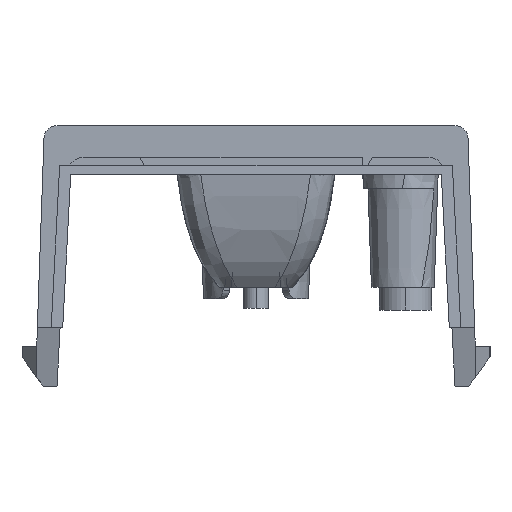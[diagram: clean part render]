
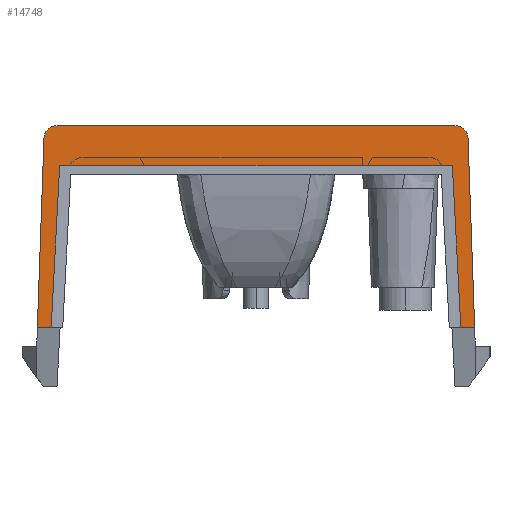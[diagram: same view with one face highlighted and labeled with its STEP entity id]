
A CAD part, left-side view. The second image highlights one B-rep face of the part: STEP entity #14748.
In plain terms, the highlighted planar face has unit normal (-1, 0, 0).
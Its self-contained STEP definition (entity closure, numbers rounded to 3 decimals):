
#476=DIRECTION('',(0.,-1.,0.));
#477=VECTOR('',#476,0.846);
#478=CARTESIAN_POINT('',(-138.911,44.468,-2.572));
#479=LINE('',#478,#477);
#810=DIRECTION('',(0.,-1.,0.));
#811=VECTOR('',#810,0.846);
#812=CARTESIAN_POINT('',(-138.911,18.595,-2.572));
#813=LINE('',#812,#811);
#1221=DIRECTION('',(0.,0.052,0.999));
#1222=VECTOR('',#1221,9.898);
#1223=CARTESIAN_POINT('',(-138.911,18.595,
-2.572));
#1224=LINE('',#1223,#1222);
#1225=DIRECTION('',(0.,1.,0.));
#1226=VECTOR('',#1225,23.99);
#1227=CARTESIAN_POINT('',(-138.911,19.114,7.313));
#1228=LINE('',#1227,#1226);
#1229=DIRECTION('',(0.,0.052,-0.999));
#1230=VECTOR('',#1229,9.898);
#1231=CARTESIAN_POINT('',(-138.911,43.103,7.313));
#1232=LINE('',#1231,#1230);
#1233=DIRECTION('',(0.,-0.035,0.999));
#1234=VECTOR('',#1233,11.559);
#1235=CARTESIAN_POINT('',(-138.911,44.468,
-2.572));
#1236=LINE('',#1235,#1234);
#1237=CARTESIAN_POINT('',(-138.911,43.262,8.952));
#1238=DIRECTION('',(1.,0.,0.));
#1239=DIRECTION('',(0.,0.999,0.035));
#1240=AXIS2_PLACEMENT_3D('',#1237,#1238,#1239);
#1242=CARTESIAN_POINT('',(-138.911,18.955,8.952));
#1243=DIRECTION('',(1.,0.,0.));
#1244=DIRECTION('',(0.,0.,1.));
#1245=AXIS2_PLACEMENT_3D('',#1242,#1243,#1244);
#1247=DIRECTION('',(0.,-0.035,-0.999));
#1248=VECTOR('',#1247,11.559);
#1249=CARTESIAN_POINT('',(-138.911,18.153,8.98));
#1250=LINE('',#1249,#1248);
#1267=DIRECTION('',(0.,1.,0.));
#1268=VECTOR('',#1267,24.307);
#1269=CARTESIAN_POINT('',(-138.911,18.955,9.755));
#1270=LINE('',#1269,#1268);
#12343=CARTESIAN_POINT('',(-138.911,17.749,
-2.572));
#12345=VERTEX_POINT('',#12343);
#12351=CARTESIAN_POINT('',(-138.911,18.595,
-2.572));
#12352=VERTEX_POINT('',#12351);
#12353=CARTESIAN_POINT('',(-138.911,18.153,
8.98));
#12354=VERTEX_POINT('',#12353);
#12369=CARTESIAN_POINT('',(-138.911,19.114,
7.313));
#12370=VERTEX_POINT('',#12369);
#12371=CARTESIAN_POINT('',(-138.911,43.103,
7.313));
#12372=VERTEX_POINT('',#12371);
#12373=CARTESIAN_POINT('',(-138.911,43.622,
-2.572));
#12374=VERTEX_POINT('',#12373);
#12375=CARTESIAN_POINT('',(-138.911,44.468,
-2.572));
#12376=VERTEX_POINT('',#12375);
#12377=CARTESIAN_POINT('',(-138.911,44.064,
8.98));
#12378=VERTEX_POINT('',#12377);
#12379=CARTESIAN_POINT('',(-138.911,43.262,
9.755));
#12380=VERTEX_POINT('',#12379);
#12381=CARTESIAN_POINT('',(-138.911,18.955,
9.755));
#12382=VERTEX_POINT('',#12381);
#14728=CARTESIAN_POINT('',(-138.911,0.,32.992));
#14729=DIRECTION('',(-1.,0.,0.));
#14730=DIRECTION('',(0.,-1.,0.));
#14731=AXIS2_PLACEMENT_3D('',#14728,#14729,#14730);
#14732=PLANE('',#14731);
#14733=ORIENTED_EDGE('',*,*,#14197,.F.);
#14734=ORIENTED_EDGE('',*,*,#14710,.T.);
#14735=ORIENTED_EDGE('',*,*,#14720,.T.);
#14736=ORIENTED_EDGE('',*,*,#13770,.T.);
#14737=ORIENTED_EDGE('',*,*,#13785,.F.);
#14738=ORIENTED_EDGE('',*,*,#13821,.T.);
#14740=ORIENTED_EDGE('',*,*,#14739,.T.);
#14742=ORIENTED_EDGE('',*,*,#14741,.F.);
#14744=ORIENTED_EDGE('',*,*,#14743,.T.);
#14745=ORIENTED_EDGE('',*,*,#14161,.T.);
#14746=EDGE_LOOP('',(#14733,#14734,#14735,#14736,#14737,#14738,#14740,#14742,
#14744,#14745));
#14747=FACE_OUTER_BOUND('',#14746,.F.);
#14748=ADVANCED_FACE('',(#14747),#14732,.T.);
#1241=CIRCLE('',#1240,0.803);
#1246=CIRCLE('',#1245,0.803);
#13770=EDGE_CURVE('',#12372,#12374,#1232,.T.);
#13785=EDGE_CURVE('',#12376,#12374,#479,.T.);
#13821=EDGE_CURVE('',#12376,#12378,#1236,.T.);
#14161=EDGE_CURVE('',#12354,#12345,#1250,.T.);
#14197=EDGE_CURVE('',#12352,#12345,#813,.T.);
#14710=EDGE_CURVE('',#12352,#12370,#1224,.T.);
#14720=EDGE_CURVE('',#12370,#12372,#1228,.T.);
#14739=EDGE_CURVE('',#12378,#12380,#1241,.T.);
#14741=EDGE_CURVE('',#12382,#12380,#1270,.T.);
#14743=EDGE_CURVE('',#12382,#12354,#1246,.T.);
